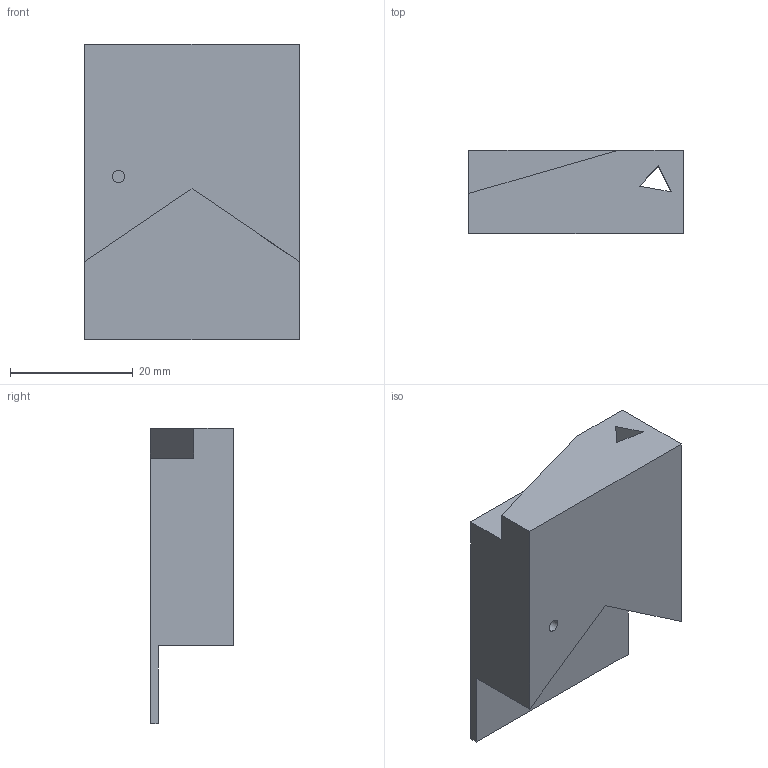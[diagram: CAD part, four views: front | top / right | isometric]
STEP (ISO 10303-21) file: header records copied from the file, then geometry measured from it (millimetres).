
FILE_DESCRIPTION(('Open CASCADE Model'),'2;1');
FILE_NAME('Open CASCADE Shape Model','2021-05-02T13:10:22',('Author'),( 'Open CASCADE'),'Open CASCADE STEP processor 7.4','Open CASCADE 7.4' ,'Unknown');
FILE_SCHEMA(('AUTOMOTIVE_DESIGN { 1 0 10303 214 1 1 1 1 }'));
Length unit declared in the file: millimetre
Products named in the file (1): Open CASCADE STEP translator 7.4 482
Bounding box: 34.99 x 13.58 x 48.18 mm (x, y, z)
Volume: 14074.1 mm3; surface area: 5984 mm2
Topology: 1 solids, 1 shells, 20 faces, 48 edges, 32 vertices
Faces by surface type: plane 19, cylinder 1
Full cylindrical faces by diameter (mm): 2 x1
Entity records: 1209 total; most frequent: CARTESIAN_POINT 209, DIRECTION 181, LINE 134, VECTOR 134, ORIENTED_EDGE 96, PCURVE 96, DEFINITIONAL_REPRESENTATION 96, EDGE_CURVE 48
